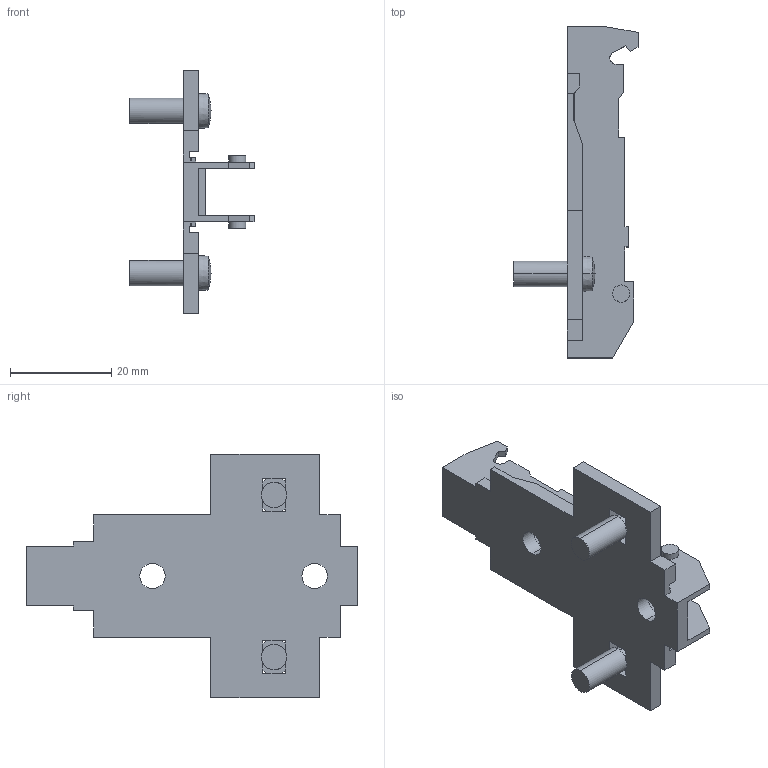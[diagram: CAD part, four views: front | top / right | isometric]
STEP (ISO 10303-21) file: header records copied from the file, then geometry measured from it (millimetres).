
FILE_DESCRIPTION (( 'STEP AP214' ), '1' );
FILE_NAME ('1D_Kreuzmontageplatte 28_32_5mm_Dübel_lang_3,5.step', '2010-11-18T10:20:56', ( 'grass' ), ( '' ), 'SwSTEP 2.0', 'SolidWorks 2010', '' );
FILE_SCHEMA (( 'AUTOMOTIVE_DESIGN' ));
Length unit declared in the file: millimetre
Products named in the file (1): 1D_Kreuzmontageplatte 28_32_5mm_Dübel_lang_3,5
Bounding box: 24.5 x 65.5 x 48 mm (x, y, z)
Volume: 7159.5 mm3; surface area: 7683.3 mm2
Topology: 1 solids, 1 shells, 126 faces, 388 edges, 250 vertices
Faces by surface type: plane 96, cylinder 22, sphere 4, cone 4
Entity records: 4374 total; most frequent: ORIENTED_EDGE 776, CARTESIAN_POINT 765, DIRECTION 722, EDGE_CURVE 388, VECTOR 308, LINE 308, VERTEX_POINT 250, AXIS2_PLACEMENT_3D 207
